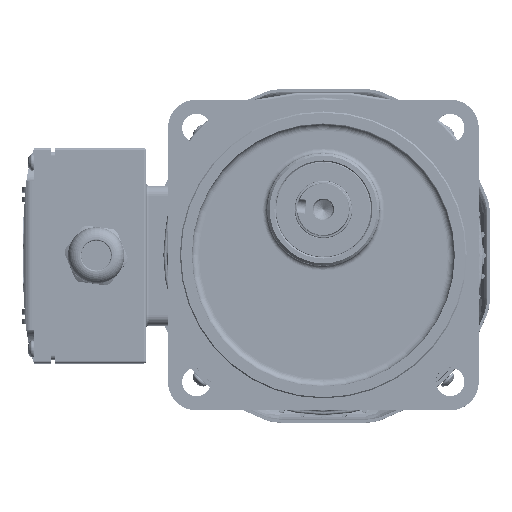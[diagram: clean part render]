
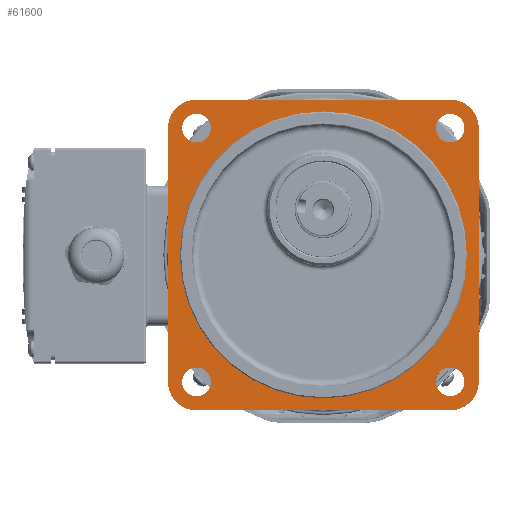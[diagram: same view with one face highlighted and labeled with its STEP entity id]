
A CAD part, top view. The second image highlights one B-rep face of the part: STEP entity #61600.
In plain terms, the highlighted planar face has unit normal (0, 0, 1).
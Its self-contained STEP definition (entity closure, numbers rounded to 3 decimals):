
#7325=FACE_BOUND('',#13983,.T.);
#7326=FACE_BOUND('',#13984,.T.);
#7327=FACE_BOUND('',#13985,.T.);
#7328=FACE_BOUND('',#13986,.T.);
#7329=FACE_BOUND('',#13987,.T.);
#8080=PLANE('',#66556);
#10125=FACE_OUTER_BOUND('',#13982,.T.);
#13982=EDGE_LOOP('',(#48250,#48251,#48252,#48253,#48254,#48255,#48256,#48257));
#13983=EDGE_LOOP('',(#48258));
#13984=EDGE_LOOP('',(#48259));
#13985=EDGE_LOOP('',(#48260));
#13986=EDGE_LOOP('',(#48261));
#13987=EDGE_LOOP('',(#48262));
#17893=LINE('',#104121,#21036);
#17896=LINE('',#104145,#21039);
#18022=LINE('',#106301,#21165);
#18027=LINE('',#106329,#21170);
#21036=VECTOR('',#76722,10.);
#21039=VECTOR('',#76727,10.);
#21165=VECTOR('',#77455,10.);
#21170=VECTOR('',#77466,10.);
#23871=CIRCLE('',#66163,12.);
#23873=CIRCLE('',#66197,6.);
#23875=CIRCLE('',#66200,6.);
#23877=CIRCLE('',#66203,6.);
#23879=CIRCLE('',#66206,6.);
#23881=CIRCLE('',#66209,12.);
#24074=CIRCLE('',#66552,12.);
#24075=CIRCLE('',#66555,12.);
#24076=CIRCLE('',#66557,60.);
#28377=VERTEX_POINT('',#103710);
#28378=VERTEX_POINT('',#103711);
#28467=VERTEX_POINT('',#103949);
#28469=VERTEX_POINT('',#103955);
#28471=VERTEX_POINT('',#103961);
#28473=VERTEX_POINT('',#103967);
#28475=VERTEX_POINT('',#103973);
#28476=VERTEX_POINT('',#103974);
#28521=VERTEX_POINT('',#104144);
#28727=VERTEX_POINT('',#106300);
#28730=VERTEX_POINT('',#106324);
#28731=VERTEX_POINT('',#106328);
#28734=VERTEX_POINT('',#106354);
#35096=EDGE_CURVE('',#28377,#28378,#23871,.T.);
#35213=EDGE_CURVE('',#28467,#28467,#23873,.T.);
#35216=EDGE_CURVE('',#28469,#28469,#23875,.T.);
#35219=EDGE_CURVE('',#28471,#28471,#23877,.T.);
#35222=EDGE_CURVE('',#28473,#28473,#23879,.T.);
#35225=EDGE_CURVE('',#28475,#28476,#23881,.T.);
#35284=EDGE_CURVE('',#28378,#28475,#17893,.T.);
#35289=EDGE_CURVE('',#28476,#28521,#17896,.T.);
#35666=EDGE_CURVE('',#28727,#28377,#18022,.T.);
#35672=EDGE_CURVE('',#28730,#28727,#24074,.T.);
#35674=EDGE_CURVE('',#28731,#28730,#18027,.T.);
#35680=EDGE_CURVE('',#28521,#28731,#24075,.T.);
#35681=EDGE_CURVE('',#28734,#28734,#24076,.T.);
#48250=ORIENTED_EDGE('',*,*,#35666,.F.);
#48251=ORIENTED_EDGE('',*,*,#35672,.F.);
#48252=ORIENTED_EDGE('',*,*,#35674,.F.);
#48253=ORIENTED_EDGE('',*,*,#35680,.F.);
#48254=ORIENTED_EDGE('',*,*,#35289,.F.);
#48255=ORIENTED_EDGE('',*,*,#35225,.F.);
#48256=ORIENTED_EDGE('',*,*,#35284,.F.);
#48257=ORIENTED_EDGE('',*,*,#35096,.F.);
#48258=ORIENTED_EDGE('',*,*,#35681,.F.);
#48259=ORIENTED_EDGE('',*,*,#35222,.F.);
#48260=ORIENTED_EDGE('',*,*,#35219,.F.);
#48261=ORIENTED_EDGE('',*,*,#35216,.F.);
#48262=ORIENTED_EDGE('',*,*,#35213,.F.);
#61600=ADVANCED_FACE('',(#10125,#7325,#7326,#7327,#7328,#7329),#8080,.T.);
#66163=AXIS2_PLACEMENT_3D('',#103712,#76402,#76403);
#66197=AXIS2_PLACEMENT_3D('',#103950,#76585,#76586);
#66200=AXIS2_PLACEMENT_3D('',#103956,#76592,#76593);
#66203=AXIS2_PLACEMENT_3D('',#103962,#76599,#76600);
#66206=AXIS2_PLACEMENT_3D('',#103968,#76606,#76607);
#66209=AXIS2_PLACEMENT_3D('',#103975,#76613,#76614);
#66552=AXIS2_PLACEMENT_3D('',#106325,#77461,#77462);
#66555=AXIS2_PLACEMENT_3D('',#106352,#77472,#77473);
#66556=AXIS2_PLACEMENT_3D('',#106353,#77474,#77475);
#66557=AXIS2_PLACEMENT_3D('',#106355,#77476,#77477);
#76402=DIRECTION('center_axis',(0.,0.,
-1.));
#76403=DIRECTION('ref_axis',(0.,1.,0.));
#76585=DIRECTION('center_axis',(0.,0.,
1.));
#76586=DIRECTION('ref_axis',(-1.,0.,0.));
#76592=DIRECTION('center_axis',(0.,0.,
1.));
#76593=DIRECTION('ref_axis',(-1.,0.,0.));
#76599=DIRECTION('center_axis',(0.,0.,
1.));
#76600=DIRECTION('ref_axis',(-1.,0.,0.));
#76606=DIRECTION('center_axis',(0.,0.,
1.));
#76607=DIRECTION('ref_axis',(-1.,0.,0.));
#76613=DIRECTION('center_axis',(0.,0.,
-1.));
#76614=DIRECTION('ref_axis',(1.,0.,0.));
#76722=DIRECTION('',(1.,0.,0.));
#76727=DIRECTION('',(0.,-1.,0.));
#77455=DIRECTION('',(0.,1.,0.));
#77461=DIRECTION('center_axis',(0.,0.,
-1.));
#77462=DIRECTION('ref_axis',(-1.,0.,0.));
#77466=DIRECTION('',(-1.,0.,0.));
#77472=DIRECTION('center_axis',(0.,0.,
-1.));
#77473=DIRECTION('ref_axis',(0.,-1.,0.));
#77474=DIRECTION('center_axis',(0.,0.,
1.));
#77475=DIRECTION('ref_axis',(1.,0.,0.));
#77476=DIRECTION('center_axis',(0.,0.,
1.));
#77477=DIRECTION('ref_axis',(-1.,0.,0.));
#103710=CARTESIAN_POINT('',(-80.918,56.972,33.5));
#103711=CARTESIAN_POINT('',(-68.918,68.972,33.5));
#103712=CARTESIAN_POINT('Origin',(-68.918,56.972,33.5));
#103949=CARTESIAN_POINT('',(-62.951,57.005,33.5));
#103950=CARTESIAN_POINT('Origin',(-68.951,57.005,33.5));
#103955=CARTESIAN_POINT('',(43.115,57.005,33.5));
#103956=CARTESIAN_POINT('Origin',(37.115,57.005,33.5));
#103961=CARTESIAN_POINT('',(43.115,-49.061,33.5));
#103962=CARTESIAN_POINT('Origin',(37.115,-49.061,33.5));
#103967=CARTESIAN_POINT('',(-62.951,-49.061,33.5));
#103968=CARTESIAN_POINT('Origin',(-68.951,-49.061,33.5));
#103973=CARTESIAN_POINT('',(37.082,68.972,33.5));
#103974=CARTESIAN_POINT('',(49.082,56.972,33.5));
#103975=CARTESIAN_POINT('Origin',(37.082,56.972,33.5));
#104121=CARTESIAN_POINT('',(-42.418,68.972,33.5));
#104144=CARTESIAN_POINT('',(49.082,-49.028,33.5));
#104145=CARTESIAN_POINT('',(49.082,30.472,33.5));
#106300=CARTESIAN_POINT('',(-80.918,-49.028,33.5));
#106301=CARTESIAN_POINT('',(-80.918,-22.528,33.5));
#106324=CARTESIAN_POINT('',(-68.918,-61.028,33.5));
#106325=CARTESIAN_POINT('Origin',(-68.918,-49.028,33.5));
#106328=CARTESIAN_POINT('',(37.082,-61.028,33.5));
#106329=CARTESIAN_POINT('',(10.582,-61.028,33.5));
#106352=CARTESIAN_POINT('Origin',(37.082,-49.028,33.5));
#106353=CARTESIAN_POINT('Origin',(-15.918,3.972,33.5));
#106354=CARTESIAN_POINT('',(44.082,3.972,33.5));
#106355=CARTESIAN_POINT('Origin',(-15.918,3.972,33.5));
